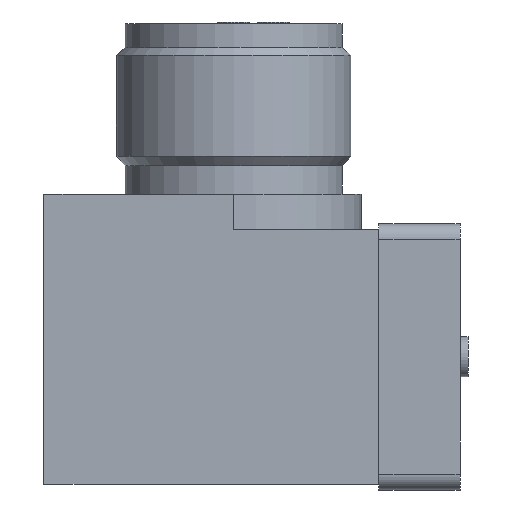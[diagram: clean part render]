
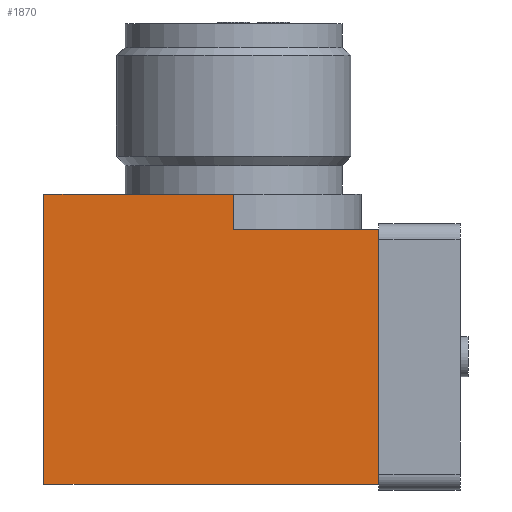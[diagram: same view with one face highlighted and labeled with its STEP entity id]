
A CAD part, front view. The second image highlights one B-rep face of the part: STEP entity #1870.
In plain terms, the highlighted planar face has unit normal (0, -1, 0).
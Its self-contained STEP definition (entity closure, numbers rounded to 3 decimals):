
#168=DIRECTION('',(-1.,0.,0.));
#169=VECTOR('',#168,11.9);
#170=CARTESIAN_POINT('',(0.,-8.,10.2));
#171=LINE('',#170,#169);
#226=DIRECTION('',(0.,0.,1.));
#227=VECTOR('',#226,2.2);
#228=CARTESIAN_POINT('',(0.,-8.,8.));
#229=LINE('',#228,#227);
#570=DIRECTION('',(1.,0.,0.));
#571=VECTOR('',#570,9.1);
#572=CARTESIAN_POINT('',(0.,-8.,8.));
#573=LINE('',#572,#571);
#577=DIRECTION('',(0.,0.,-1.));
#578=VECTOR('',#577,16.);
#579=CARTESIAN_POINT('',(9.1,-8.,8.));
#580=LINE('',#579,#578);
#584=DIRECTION('',(-1.,0.,0.));
#585=VECTOR('',#584,21.);
#586=CARTESIAN_POINT('',(9.1,-8.,-8.));
#587=LINE('',#586,#585);
#591=DIRECTION('',(0.,0.,1.));
#592=VECTOR('',#591,18.2);
#593=CARTESIAN_POINT('',(-11.9,-8.,-8.));
#594=LINE('',#593,#592);
#1103=CARTESIAN_POINT('',(0.,-8.,10.2));
#1104=VERTEX_POINT('',#1103);
#1105=CARTESIAN_POINT('',(-11.9,-8.,10.2));
#1106=VERTEX_POINT('',#1105);
#1115=CARTESIAN_POINT('',(0.,-8.,8.));
#1116=VERTEX_POINT('',#1115);
#1117=CARTESIAN_POINT('',(9.1,-8.,8.));
#1118=VERTEX_POINT('',#1117);
#1135=CARTESIAN_POINT('',(9.1,-8.,-8.));
#1136=VERTEX_POINT('',#1135);
#1137=CARTESIAN_POINT('',(-11.9,-8.,-8.));
#1138=VERTEX_POINT('',#1137);
#1857=CARTESIAN_POINT('',(9.1,-8.,0.));
#1858=DIRECTION('',(0.,1.,0.));
#1859=DIRECTION('',(0.,0.,-1.));
#1860=AXIS2_PLACEMENT_3D('',#1857,#1858,#1859);
#1861=PLANE('',#1860);
#1862=ORIENTED_EDGE('',*,*,#1540,.F.);
#1863=ORIENTED_EDGE('',*,*,#1555,.T.);
#1864=ORIENTED_EDGE('',*,*,#1586,.T.);
#1865=ORIENTED_EDGE('',*,*,#1832,.T.);
#1866=ORIENTED_EDGE('',*,*,#1846,.T.);
#1867=ORIENTED_EDGE('',*,*,#1502,.F.);
#1868=EDGE_LOOP('',(#1862,#1863,#1864,#1865,#1866,#1867));
#1869=FACE_OUTER_BOUND('',#1868,.F.);
#1870=ADVANCED_FACE('',(#1869),#1861,.F.);
#1502=EDGE_CURVE('',#1104,#1106,#171,.T.);
#1540=EDGE_CURVE('',#1116,#1104,#229,.T.);
#1555=EDGE_CURVE('',#1116,#1118,#573,.T.);
#1586=EDGE_CURVE('',#1118,#1136,#580,.T.);
#1832=EDGE_CURVE('',#1136,#1138,#587,.T.);
#1846=EDGE_CURVE('',#1138,#1106,#594,.T.);
